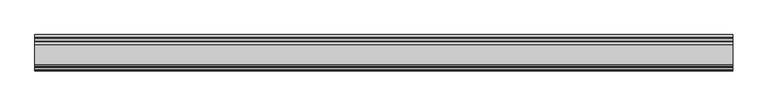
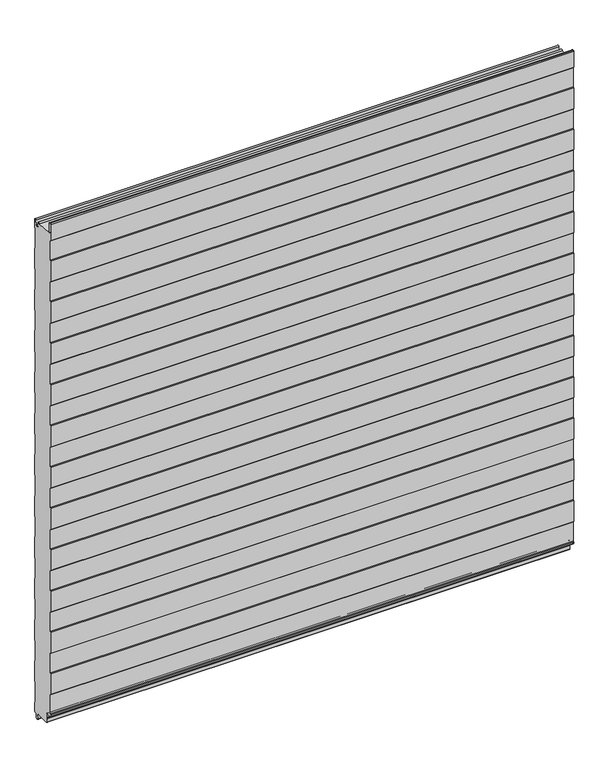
"""IFC4 building model written with IfcOpenShell, lengths in millimetres: plate geometry, HI-PIRM STS 60."""

from ifc_helpers import new_model, si_unit, frame, origin, place, context, project, spatial, polyline, circle_curve, source, transform, mapped, element, save
from ifc_brep_helpers import plane_surface, cylinder_surface, revolved_surface, advanced_brep


def plate_dcec8105(model_context):
    return source(origin(), model_context, "Body", "AdvancedBrep", [
        advanced_brep(
        [(575.0, -43.6, 14.0), (575.0, -14.1537344, 14.0), (575.0, -11.672369, 11.8046734), (575.0, -10.4633779, 1.9582314), (575.0, -6.0366221, 1.9582314), (575.0, -5.0387631, 10.0851407), (575.0, -2.1488719, 12.4953188), (575.0, 0.0, 14.53), (575.0, 0.0, 34.5), (575.0, -1.0, 36.2320508), (575.0, -1.0, 80.7679492), (575.0, 0.0, 82.5), (575.0, 0.0, 130.5), (575.0, -1.0, 132.2320508), (575.0, -1.0, 176.7679492), (575.0, 0.0, 178.5), (575.0, 0.0, 226.5), (575.0, -1.0, 228.2320508), (575.0, -1.0, 272.7679492), (575.0, 0.0, 274.5), (575.0, 0.0, 322.5), (575.0, -1.0, 324.2320508), (575.0, -1.0, 368.7679492), (575.0, 0.0, 370.5), (575.0, 0.0, 418.5), (575.0, -1.0, 420.2320508), (575.0, -1.0, 464.7679492), (575.0, 0.0, 466.5), (575.0, 0.0, 514.5), (575.0, -1.0, 516.2320508), (575.0, -1.0, 560.7679492), (575.0, 0.0, 562.5), (575.0, 0.0, 610.5), (575.0, -1.0, 612.2320508), (575.0, -1.0, 656.7679492), (575.0, 0.0, 658.5), (575.0, 0.0, 706.5), (575.0, -1.0, 708.2320508), (575.0, -1.0, 752.7679492), (575.0, 0.0, 754.5), (575.0, 0.0, 802.5), (575.0, -1.0, 804.2320508), (575.0, -1.0, 848.7679492), (575.0, 0.0, 850.5), (575.0, 0.0, 898.5), (575.0, -1.0, 900.2320508), (575.0, -1.0, 944.7679492), (575.0, 0.0, 946.5), (575.0, 0.0, 994.5), (575.0, -1.0, 996.2320508), (575.0, -1.0, 1040.7679492), (575.0, 0.0, 1042.5), (575.0, 0.0, 1090.5), (575.0, -1.0, 1092.2320508), (575.0, -1.0, 1136.7679492), (575.0, 0.0, 1138.5), (575.0, 0.0, 1158.47), (575.0, -4.0374362, 1158.7718279), (575.0, -5.5305668, 1148.8411199), (575.0, -10.9661738, 1148.8199999), (575.0, -12.2962184, 1157.2214686), (575.0, -16.5, 1156.89), (575.0, -50.0, 1157.97), (575.0, -52.03, 1160.0), (575.0, -53.6, 1160.0), (575.0, -55.0, 1161.4), (575.0, -55.0, 1181.97), (575.0, -57.03, 1184.0), (575.0, -57.97, 1184.0), (575.0, -60.0, 1181.97), (575.0, -60.0, 1145.0), (575.0, -59.0, 1143.2679492), (575.0, -59.0, 1098.7320508), (575.0, -60.0, 1097.0), (575.0, -60.0, 1049.0), (575.0, -59.0, 1047.2679492), (575.0, -59.0, 1002.7320508), (575.0, -60.0, 1001.0), (575.0, -60.0, 953.0), (575.0, -59.0, 951.2679492), (575.0, -59.0, 906.7320508), (575.0, -60.0, 905.0), (575.0, -60.0, 857.0), (575.0, -59.0, 855.2679492), (575.0, -59.0, 810.7320508), (575.0, -60.0, 809.0), (575.0, -60.0, 761.0), (575.0, -59.0, 759.2679492), (575.0, -59.0, 714.7320508), (575.0, -60.0, 713.0), (575.0, -60.0, 665.0), (575.0, -59.0, 663.2679492), (575.0, -59.0, 618.7320508), (575.0, -60.0, 617.0), (575.0, -60.0, 569.0), (575.0, -59.0, 567.2679492), (575.0, -59.0, 522.7320508), (575.0, -60.0, 521.0), (575.0, -60.0, 473.0), (575.0, -59.0, 471.2679492), (575.0, -59.0, 426.7320508), (575.0, -60.0, 425.0), (575.0, -60.0, 377.0), (575.0, -59.0, 375.2679492), (575.0, -59.0, 330.7320508), (575.0, -60.0, 329.0), (575.0, -60.0, 281.0), (575.0, -59.0, 279.2679492), (575.0, -59.0, 234.7320508), (575.0, -60.0, 233.0), (575.0, -60.0, 185.0), (575.0, -59.0, 183.2679492), (575.0, -59.0, 138.7320508), (575.0, -60.0, 137.0), (575.0, -60.0, 89.0), (575.0, -59.0, 87.2679492), (575.0, -59.0, 42.7320508), (575.0, -60.0, 41.0), (575.0, -60.0, 38.03), (575.0, -57.97, 36.0), (575.0, -46.4, 36.0), (575.0, -45.0, 34.6), (575.0, -45.0, 26.5), (575.0, -44.5651531, 25.355051), (575.0, -44.6152408, 24.2526856), (575.0, -45.0, 23.2008894), (575.0, -45.0, 15.4), (-575.0, -43.6, 14.0), (-575.0, -45.0, 15.4), (-575.0, -45.0, 23.2008894), (-575.0, -44.6152408, 24.2526856), (-575.0, -44.5651531, 25.355051), (-575.0, -45.0, 26.5), (-575.0, -45.0, 34.6), (-575.0, -46.4, 36.0), (-575.0, -57.97, 36.0), (-575.0, -60.0, 38.03), (-575.0, -60.0, 41.0), (-575.0, -59.0, 42.7320508), (-575.0, -59.0, 87.2679492), (-575.0, -60.0, 89.0), (-575.0, -60.0, 137.0), (-575.0, -59.0, 138.7320508), (-575.0, -59.0, 183.2679492), (-575.0, -60.0, 185.0), (-575.0, -60.0, 233.0), (-575.0, -59.0, 234.7320508), (-575.0, -59.0, 279.2679492), (-575.0, -60.0, 281.0), (-575.0, -60.0, 329.0), (-575.0, -59.0, 330.7320508), (-575.0, -59.0, 375.2679492), (-575.0, -60.0, 377.0), (-575.0, -60.0, 425.0), (-575.0, -59.0, 426.7320508), (-575.0, -59.0, 471.2679492), (-575.0, -60.0, 473.0), (-575.0, -60.0, 521.0), (-575.0, -59.0, 522.7320508), (-575.0, -59.0, 567.2679492), (-575.0, -60.0, 569.0), (-575.0, -60.0, 617.0), (-575.0, -59.0, 618.7320508), (-575.0, -59.0, 663.2679492), (-575.0, -60.0, 665.0), (-575.0, -60.0, 713.0), (-575.0, -59.0, 714.7320508), (-575.0, -59.0, 759.2679492), (-575.0, -60.0, 761.0), (-575.0, -60.0, 809.0), (-575.0, -59.0, 810.7320508), (-575.0, -59.0, 855.2679492), (-575.0, -60.0, 857.0), (-575.0, -60.0, 905.0), (-575.0, -59.0, 906.7320508), (-575.0, -59.0, 951.2679492), (-575.0, -60.0, 953.0), (-575.0, -60.0, 1001.0), (-575.0, -59.0, 1002.7320508), (-575.0, -59.0, 1047.2679492), (-575.0, -60.0, 1049.0), (-575.0, -60.0, 1097.0), (-575.0, -59.0, 1098.7320508), (-575.0, -59.0, 1143.2679492), (-575.0, -60.0, 1145.0), (-575.0, -60.0, 1181.97), (-575.0, -57.97, 1184.0), (-575.0, -57.03, 1184.0), (-575.0, -55.0, 1181.97), (-575.0, -55.0, 1161.4), (-575.0, -53.6, 1160.0), (-575.0, -52.03, 1160.0), (-575.0, -50.0, 1157.97), (-575.0, -16.5, 1156.89), (-575.0, -12.3059539, 1157.2199273), (-575.0, -10.9661738, 1148.8199999), (-575.0, -5.5305668, 1148.8411199), (-575.0, -4.0374362, 1158.7718279), (-575.0, 0.0, 1158.47), (-575.0, 0.0, 1138.5), (-575.0, -1.0, 1136.7679492), (-575.0, -1.0, 1092.2320508), (-575.0, 0.0, 1090.5), (-575.0, 0.0, 1042.5), (-575.0, -1.0, 1040.7679492), (-575.0, -1.0, 996.2320508), (-575.0, 0.0, 994.5), (-575.0, 0.0, 946.5), (-575.0, -1.0, 944.7679492), (-575.0, -1.0, 900.2320508), (-575.0, 0.0, 898.5), (-575.0, 0.0, 850.5), (-575.0, -1.0, 848.7679492), (-575.0, -1.0, 804.2320508), (-575.0, 0.0, 802.5), (-575.0, 0.0, 754.5), (-575.0, -1.0, 752.7679492), (-575.0, -1.0, 708.2320508), (-575.0, 0.0, 706.5), (-575.0, 0.0, 658.5), (-575.0, -1.0, 656.7679492), (-575.0, -1.0, 612.2320508), (-575.0, 0.0, 610.5), (-575.0, 0.0, 562.5), (-575.0, -1.0, 560.7679492), (-575.0, -1.0, 516.2320508), (-575.0, 0.0, 514.5), (-575.0, 0.0, 466.5), (-575.0, -1.0, 464.7679492), (-575.0, -1.0, 420.2320508), (-575.0, 0.0, 418.5), (-575.0, 0.0, 370.5), (-575.0, -1.0, 368.7679492), (-575.0, -1.0, 324.2320508), (-575.0, 0.0, 322.5), (-575.0, 0.0, 274.5), (-575.0, -1.0, 272.7679492), (-575.0, -1.0, 228.2320508), (-575.0, 0.0, 226.5), (-575.0, 0.0, 178.5), (-575.0, -1.0, 176.7679492), (-575.0, -1.0, 132.2320508), (-575.0, 0.0, 130.5), (-575.0, 0.0, 82.5), (-575.0, -1.0, 80.7679492), (-575.0, -1.0, 36.2320508), (-575.0, 0.0, 34.5), (-575.0, 0.0, 14.53), (-575.0, -2.1483965, 12.5034556), (-575.0, -5.0387631, 10.0851407), (-575.0, -6.0366221, 1.9582314), (-575.0, -10.4633779, 1.9582314), (-575.0, -11.672369, 11.8046734), (-575.0, -14.1537344, 14.0)],
        [
            (0, 1),
            (1, 2, circle_curve(frame((575.0, -14.1537344, 11.5), z_axis=(-1.0, 0.0, 0.0), x_axis=(0.0, 1.0, 0.0)), 2.5)),
            (2, 3),
            (3, 4, circle_curve(frame((575.0, -8.25, 2.23), z_axis=(1.0, 0.0, 0.0), x_axis=(0.0, 1.0, 0.0)), 2.23)),
            (4, 5),
            (5, 6, circle_curve(frame((575.0, -2.3092612, 9.75), z_axis=(-1.0, 0.0, 0.0), x_axis=(0.0, 1.0, 0.0)), 2.75)),
            (6, 7, circle_curve(frame((575.0, -2.03, 14.53), z_axis=(1.0, 0.0, 0.0), x_axis=(0.0, 1.0, 0.0)), 2.03)),
            (7, 8),
            (8, 9),
            (9, 10),
            (10, 11),
            (11, 12),
            (12, 13),
            (13, 14),
            (14, 15),
            (15, 16),
            (16, 17),
            (17, 18),
            (18, 19),
            (19, 20),
            (20, 21),
            (21, 22),
            (22, 23),
            (23, 24),
            (24, 25),
            (25, 26),
            (26, 27),
            (27, 28),
            (28, 29),
            (29, 30),
            (30, 31),
            (31, 32),
            (32, 33),
            (33, 34),
            (34, 35),
            (35, 36),
            (36, 37),
            (37, 38),
            (38, 39),
            (39, 40),
            (40, 41),
            (41, 42),
            (42, 43),
            (43, 44),
            (44, 45),
            (45, 46),
            (46, 47),
            (47, 48),
            (48, 49),
            (49, 50),
            (50, 51),
            (51, 52),
            (52, 53),
            (53, 54),
            (54, 55),
            (55, 56),
            (56, 57, circle_curve(frame((575.0, -2.03, 1158.47), z_axis=(1.0, 0.0, 0.0), x_axis=(0.0, 1.0, 0.0)), 2.03)),
            (57, 58),
            (58, 59, circle_curve(frame((575.0, -8.25, 1149.25), z_axis=(-1.0, 0.0, 0.0), x_axis=(0.0, 1.0, 0.0)), 2.75)),
            (59, 60),
            (60, 61, circle_curve(frame((575.0, -14.39, 1156.89), z_axis=(1.0, 0.0, 0.0), x_axis=(0.0, 1.0, 0.0)), 2.11)),
            (61, 62),
            (62, 63, circle_curve(frame((575.0, -52.03, 1157.97), z_axis=(1.0, 0.0, 0.0), x_axis=(0.0, 1.0, 0.0)), 2.03)),
            (63, 64),
            (64, 65, circle_curve(frame((575.0, -53.6, 1161.4), z_axis=(-1.0, 0.0, 0.0), x_axis=(0.0, 1.0, 0.0)), 1.4)),
            (65, 66),
            (66, 67, circle_curve(frame((575.0, -57.03, 1181.97), z_axis=(1.0, 0.0, 0.0), x_axis=(0.0, 1.0, 0.0)), 2.03)),
            (67, 68),
            (68, 69, circle_curve(frame((575.0, -57.97, 1181.97), z_axis=(1.0, 0.0, 0.0), x_axis=(0.0, 1.0, 0.0)), 2.03)),
            (69, 70),
            (70, 71),
            (71, 72),
            (72, 73),
            (73, 74),
            (74, 75),
            (75, 76),
            (76, 77),
            (77, 78),
            (78, 79),
            (79, 80),
            (80, 81),
            (81, 82),
            (82, 83),
            (83, 84),
            (84, 85),
            (85, 86),
            (86, 87),
            (87, 88),
            (88, 89),
            (89, 90),
            (90, 91),
            (91, 92),
            (92, 93),
            (93, 94),
            (94, 95),
            (95, 96),
            (96, 97),
            (97, 98),
            (98, 99),
            (99, 100),
            (100, 101),
            (101, 102),
            (102, 103),
            (103, 104),
            (104, 105),
            (105, 106),
            (106, 107),
            (107, 108),
            (108, 109),
            (109, 110),
            (110, 111),
            (111, 112),
            (112, 113),
            (113, 114),
            (114, 115),
            (115, 116),
            (116, 117),
            (117, 118),
            (118, 119, circle_curve(frame((575.0, -57.97, 38.03), z_axis=(1.0, 0.0, 0.0), x_axis=(0.0, 1.0, 0.0)), 2.03)),
            (119, 120),
            (120, 121, circle_curve(frame((575.0, -46.4, 34.6), z_axis=(-1.0, 0.0, 0.0), x_axis=(0.0, 1.0, 0.0)), 1.4)),
            (121, 122),
            (122, 123),
            (123, 124, circle_curve(frame((575.0, -45.423346, 24.8417238), z_axis=(-1.0, 0.0, 0.0), x_axis=(0.0, 1.0, 0.0)), 1.0)),
            (124, 125, circle_curve(frame((575.0, -42.9730739, 23.0556893), z_axis=(1.0, 0.0, 0.0), x_axis=(0.0, 1.0, 0.0)), 2.0321202)),
            (125, 126),
            (126, 0, circle_curve(frame((575.0, -43.6, 15.4), z_axis=(1.0, 0.0, 0.0), x_axis=(0.0, 1.0, 0.0)), 1.4)),
            (127, 128, circle_curve(frame((-575.0, -43.6, 15.4), z_axis=(-1.0, 0.0, 0.0), x_axis=(0.0, 1.0, 0.0)), 1.4)),
            (128, 129),
            (129, 130, circle_curve(frame((-575.0, -42.9730739, 23.0556893), z_axis=(-1.0, 0.0, 0.0), x_axis=(0.0, 1.0, 0.0)), 2.0321202)),
            (130, 131, circle_curve(frame((-575.0, -45.423346, 24.8417238), z_axis=(1.0, 0.0, 0.0), x_axis=(0.0, 1.0, 0.0)), 1.0)),
            (131, 132),
            (132, 133),
            (133, 134, circle_curve(frame((-575.0, -46.4, 34.6), z_axis=(1.0, 0.0, 0.0), x_axis=(0.0, 1.0, 0.0)), 1.4)),
            (134, 135),
            (135, 136, circle_curve(frame((-575.0, -57.97, 38.03), z_axis=(-1.0, 0.0, 0.0), x_axis=(0.0, 1.0, 0.0)), 2.03)),
            (136, 137),
            (137, 138),
            (138, 139),
            (139, 140),
            (140, 141),
            (141, 142),
            (142, 143),
            (143, 144),
            (144, 145),
            (145, 146),
            (146, 147),
            (147, 148),
            (148, 149),
            (149, 150),
            (150, 151),
            (151, 152),
            (152, 153),
            (153, 154),
            (154, 155),
            (155, 156),
            (156, 157),
            (157, 158),
            (158, 159),
            (159, 160),
            (160, 161),
            (161, 162),
            (162, 163),
            (163, 164),
            (164, 165),
            (165, 166),
            (166, 167),
            (167, 168),
            (168, 169),
            (169, 170),
            (170, 171),
            (171, 172),
            (172, 173),
            (173, 174),
            (174, 175),
            (175, 176),
            (176, 177),
            (177, 178),
            (178, 179),
            (179, 180),
            (180, 181),
            (181, 182),
            (182, 183),
            (183, 184),
            (184, 185),
            (185, 186, circle_curve(frame((-575.0, -57.97, 1181.97), z_axis=(-1.0, 0.0, 0.0), x_axis=(0.0, 1.0, 0.0)), 2.03)),
            (186, 187),
            (187, 188, circle_curve(frame((-575.0, -57.03, 1181.97), z_axis=(-1.0, 0.0, 0.0), x_axis=(0.0, 1.0, 0.0)), 2.03)),
            (188, 189),
            (189, 190, circle_curve(frame((-575.0, -53.6, 1161.4), z_axis=(1.0, 0.0, 0.0), x_axis=(0.0, 1.0, 0.0)), 1.4)),
            (190, 191),
            (191, 192, circle_curve(frame((-575.0, -52.03, 1157.97), z_axis=(-1.0, 0.0, 0.0), x_axis=(0.0, 1.0, 0.0)), 2.03)),
            (192, 193),
            (193, 194, circle_curve(frame((-575.0, -14.39, 1156.89), z_axis=(-1.0, 0.0, 0.0), x_axis=(0.0, 1.0, 0.0)), 2.11)),
            (194, 195),
            (195, 196, circle_curve(frame((-575.0, -8.25, 1149.25), z_axis=(1.0, 0.0, 0.0), x_axis=(0.0, 1.0, 0.0)), 2.75)),
            (196, 197),
            (197, 198, circle_curve(frame((-575.0, -2.03, 1158.47), z_axis=(-1.0, 0.0, 0.0), x_axis=(0.0, 1.0, 0.0)), 2.03)),
            (198, 199),
            (199, 200),
            (200, 201),
            (201, 202),
            (202, 203),
            (203, 204),
            (204, 205),
            (205, 206),
            (206, 207),
            (207, 208),
            (208, 209),
            (209, 210),
            (210, 211),
            (211, 212),
            (212, 213),
            (213, 214),
            (214, 215),
            (215, 216),
            (216, 217),
            (217, 218),
            (218, 219),
            (219, 220),
            (220, 221),
            (221, 222),
            (222, 223),
            (223, 224),
            (224, 225),
            (225, 226),
            (226, 227),
            (227, 228),
            (228, 229),
            (229, 230),
            (230, 231),
            (231, 232),
            (232, 233),
            (233, 234),
            (234, 235),
            (235, 236),
            (236, 237),
            (237, 238),
            (238, 239),
            (239, 240),
            (240, 241),
            (241, 242),
            (242, 243),
            (243, 244),
            (244, 245),
            (245, 246),
            (246, 247),
            (247, 248, circle_curve(frame((-575.0, -2.03, 14.53), z_axis=(-1.0, 0.0, 0.0), x_axis=(0.0, 1.0, 0.0)), 2.03)),
            (248, 249, circle_curve(frame((-575.0, -2.3092612, 9.75), z_axis=(1.0, 0.0, 0.0), x_axis=(0.0, 1.0, 0.0)), 2.75)),
            (249, 250),
            (250, 251, circle_curve(frame((-575.0, -8.25, 2.23), z_axis=(-1.0, 0.0, 0.0), x_axis=(0.0, 1.0, 0.0)), 2.23)),
            (251, 252),
            (252, 253, circle_curve(frame((-575.0, -14.1537344, 11.5), z_axis=(1.0, 0.0, 0.0), x_axis=(0.0, 1.0, 0.0)), 2.5)),
            (253, 127),
            (0, 127),
            (253, 1),
            (252, 2),
            (251, 3),
            (250, 4),
            (249, 5),
            (248, 6),
            (247, 7),
            (246, 8),
            (245, 9),
            (244, 10),
            (243, 11),
            (242, 12),
            (241, 13),
            (240, 14),
            (239, 15),
            (238, 16),
            (237, 17),
            (236, 18),
            (235, 19),
            (234, 20),
            (233, 21),
            (232, 22),
            (231, 23),
            (230, 24),
            (229, 25),
            (228, 26),
            (227, 27),
            (226, 28),
            (225, 29),
            (224, 30),
            (223, 31),
            (222, 32),
            (221, 33),
            (220, 34),
            (219, 35),
            (218, 36),
            (217, 37),
            (216, 38),
            (215, 39),
            (214, 40),
            (213, 41),
            (212, 42),
            (211, 43),
            (210, 44),
            (209, 45),
            (208, 46),
            (207, 47),
            (206, 48),
            (205, 49),
            (204, 50),
            (203, 51),
            (202, 52),
            (201, 53),
            (200, 54),
            (199, 55),
            (198, 56),
            (197, 57),
            (196, 58),
            (195, 59),
            (194, 60),
            (193, 61),
            (192, 62),
            (191, 63),
            (190, 64),
            (189, 65),
            (188, 66),
            (187, 67),
            (186, 68),
            (185, 69),
            (184, 70),
            (183, 71),
            (182, 72),
            (181, 73),
            (180, 74),
            (179, 75),
            (178, 76),
            (177, 77),
            (176, 78),
            (175, 79),
            (174, 80),
            (173, 81),
            (172, 82),
            (171, 83),
            (170, 84),
            (169, 85),
            (168, 86),
            (167, 87),
            (166, 88),
            (165, 89),
            (164, 90),
            (163, 91),
            (162, 92),
            (161, 93),
            (160, 94),
            (159, 95),
            (158, 96),
            (157, 97),
            (156, 98),
            (155, 99),
            (154, 100),
            (153, 101),
            (152, 102),
            (151, 103),
            (150, 104),
            (149, 105),
            (148, 106),
            (147, 107),
            (146, 108),
            (145, 109),
            (144, 110),
            (143, 111),
            (142, 112),
            (141, 113),
            (140, 114),
            (139, 115),
            (138, 116),
            (137, 117),
            (136, 118),
            (135, 119),
            (134, 120),
            (133, 121),
            (132, 122),
            (131, 123),
            (130, 124),
            (129, 125),
            (128, 126),
        ],
        [
            plane_surface(frame((575.0, -30.6820829, 576.8227924), z_axis=(1.0, 0.0, 0.0), x_axis=(0.0, 1.0, 0.0))),
            plane_surface(frame((-575.0, -30.6820829, 576.8227924), z_axis=(-1.0, 0.0, 0.0), x_axis=(0.0, -1.0, 0.0))),
            plane_surface(frame((575.0, -43.6, 14.0), z_axis=(0.0, 0.0, -1.0), x_axis=(-1.0, 0.0, 0.0))),
            revolved_surface(polyline([(-575.0, -11.6537344, 11.5), (575.0, -11.6537344, 11.5)]), (-575.0, -14.1537344, 11.5), (-1.0, 0.0, 0.0)),
            plane_surface(frame((575.0, -11.672369, 11.8046734), z_axis=(0.0, -0.9925461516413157, -0.1218693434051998), x_axis=(-1.0, 0.0, 0.0))),
            cylinder_surface(frame((-575.0, -8.25, 2.23), z_axis=(1.0, 0.0, 0.0), x_axis=(0.0, 1.0, 0.0)), 2.23),
            plane_surface(frame((575.0, -6.0366221, 1.9582314), z_axis=(0.0, 0.9925461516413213, -0.12186934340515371), x_axis=(-1.0, 0.0, 0.0))),
            revolved_surface(polyline([(-575.0, 0.4407388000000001, 9.75), (575.0, 0.4407388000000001, 9.75)]), (-575.0, -2.3092612, 9.75), (-1.0, 0.0, 0.0)),
            cylinder_surface(frame((-575.0, -2.03, 14.53), z_axis=(1.0, 0.0, 0.0), x_axis=(0.0, 1.0, 0.0)), 2.03),
            plane_surface(frame((575.0, 0.0, 14.53), z_axis=(0.0, 1.0, 0.0), x_axis=(-1.0, 0.0, 0.0))),
            plane_surface(frame((575.0, 0.0, 34.5), z_axis=(0.0, 0.8660254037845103, 0.4999999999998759), x_axis=(-1.0, 0.0, 0.0))),
            plane_surface(frame((575.0, -1.0, 36.2320508), z_axis=(0.0, 1.0, 0.0), x_axis=(-1.0, 0.0, 0.0))),
            plane_surface(frame((575.0, -1.0, 80.7679492), z_axis=(0.0, 0.8660254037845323, -0.4999999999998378), x_axis=(-1.0, 0.0, 0.0))),
            plane_surface(frame((575.0, 0.0, 82.5), z_axis=(0.0, 1.0, 0.0), x_axis=(-1.0, 0.0, 0.0))),
            plane_surface(frame((575.0, 0.0, 130.5), z_axis=(0.0, 0.8660254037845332, 0.49999999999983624), x_axis=(-1.0, 0.0, 0.0))),
            plane_surface(frame((575.0, -1.0, 132.2320508), z_axis=(0.0, 1.0, 0.0), x_axis=(-1.0, 0.0, 0.0))),
            plane_surface(frame((575.0, -1.0, 176.7679492), z_axis=(0.0, 0.8660254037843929, -0.5000000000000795), x_axis=(-1.0, 0.0, 0.0))),
            plane_surface(frame((575.0, 0.0, 178.5), z_axis=(0.0, 1.0, 0.0), x_axis=(-1.0, 0.0, 0.0))),
            plane_surface(frame((575.0, 0.0, 226.5), z_axis=(0.0, 0.8660254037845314, 0.4999999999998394), x_axis=(-1.0, 0.0, 0.0))),
            plane_surface(frame((575.0, -1.0, 228.2320508), z_axis=(0.0, 1.0, 0.0), x_axis=(-1.0, 0.0, 0.0))),
            plane_surface(frame((575.0, -1.0, 272.7679492), z_axis=(0.0, 0.8660254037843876, -0.5000000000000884), x_axis=(-1.0, 0.0, 0.0))),
            plane_surface(frame((575.0, 0.0, 274.5), z_axis=(0.0, 1.0, 0.0), x_axis=(-1.0, 0.0, 0.0))),
            plane_surface(frame((575.0, 0.0, 322.5), z_axis=(0.0, 0.8660254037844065, 0.5000000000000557), x_axis=(-1.0, 0.0, 0.0))),
            plane_surface(frame((575.0, -1.0, 324.2320508), z_axis=(0.0, 1.0, 0.0), x_axis=(-1.0, 0.0, 0.0))),
            plane_surface(frame((575.0, -1.0, 368.7679492), z_axis=(0.0, 0.8660254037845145, -0.49999999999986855), x_axis=(-1.0, 0.0, 0.0))),
            plane_surface(frame((575.0, 0.0, 370.5), z_axis=(0.0, 1.0, 0.0), x_axis=(-1.0, 0.0, 0.0))),
            plane_surface(frame((575.0, 0.0, 418.5), z_axis=(0.0, 0.8660254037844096, 0.5000000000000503), x_axis=(-1.0, 0.0, 0.0))),
            plane_surface(frame((575.0, -1.0, 420.2320508), z_axis=(0.0, 1.0, 0.0), x_axis=(-1.0, 0.0, 0.0))),
            plane_surface(frame((575.0, -1.0, 464.7679492), z_axis=(0.0, 0.8660254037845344, -0.4999999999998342), x_axis=(-1.0, 0.0, 0.0))),
            plane_surface(frame((575.0, 0.0, 466.5), z_axis=(0.0, 1.0, 0.0), x_axis=(-1.0, 0.0, 0.0))),
            plane_surface(frame((575.0, 0.0, 514.5), z_axis=(0.0, 0.8660254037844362, 0.5000000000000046), x_axis=(-1.0, 0.0, 0.0))),
            plane_surface(frame((575.0, -1.0, 516.2320508), z_axis=(0.0, 1.0, 0.0), x_axis=(-1.0, 0.0, 0.0))),
            plane_surface(frame((575.0, -1.0, 560.7679492), z_axis=(0.0, 0.8660254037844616, -0.49999999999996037), x_axis=(-1.0, 0.0, 0.0))),
            plane_surface(frame((575.0, 0.0, 562.5), z_axis=(0.0, 1.0, 0.0), x_axis=(-1.0, 0.0, 0.0))),
            plane_surface(frame((575.0, 0.0, 610.5), z_axis=(0.0, 0.866025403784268, 0.5000000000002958), x_axis=(-1.0, 0.0, 0.0))),
            plane_surface(frame((575.0, -1.0, 612.2320508), z_axis=(0.0, 1.0, 0.0), x_axis=(-1.0, 0.0, 0.0))),
            plane_surface(frame((575.0, -1.0, 656.7679492), z_axis=(0.0, 0.8660254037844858, -0.49999999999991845), x_axis=(-1.0, 0.0, 0.0))),
            plane_surface(frame((575.0, 0.0, 658.5), z_axis=(0.0, 1.0, 0.0), x_axis=(-1.0, 0.0, 0.0))),
            plane_surface(frame((575.0, 0.0, 706.5), z_axis=(0.0, 0.8660254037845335, 0.49999999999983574), x_axis=(-1.0, 0.0, 0.0))),
            plane_surface(frame((575.0, -1.0, 708.2320508), z_axis=(0.0, 1.0, 0.0), x_axis=(-1.0, 0.0, 0.0))),
            plane_surface(frame((575.0, -1.0, 752.7679492), z_axis=(0.0, 0.8660254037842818, -0.5000000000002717), x_axis=(-1.0, 0.0, 0.0))),
            plane_surface(frame((575.0, 0.0, 754.5), z_axis=(0.0, 1.0, 0.0), x_axis=(-1.0, 0.0, 0.0))),
            plane_surface(frame((575.0, 0.0, 802.5), z_axis=(0.0, 0.8660254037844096, 0.5000000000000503), x_axis=(-1.0, 0.0, 0.0))),
            plane_surface(frame((575.0, -1.0, 804.2320508), z_axis=(0.0, 1.0, 0.0), x_axis=(-1.0, 0.0, 0.0))),
            plane_surface(frame((575.0, -1.0, 848.7679492), z_axis=(0.0, 0.8660254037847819, -0.4999999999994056), x_axis=(-1.0, 0.0, 0.0))),
            plane_surface(frame((575.0, 0.0, 850.5), z_axis=(0.0, 1.0, 0.0), x_axis=(-1.0, 0.0, 0.0))),
            plane_surface(frame((575.0, 0.0, 898.5), z_axis=(0.0, 0.8660254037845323, 0.4999999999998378), x_axis=(-1.0, 0.0, 0.0))),
            plane_surface(frame((575.0, -1.0, 900.2320508), z_axis=(0.0, 1.0, 0.0), x_axis=(-1.0, 0.0, 0.0))),
            plane_surface(frame((575.0, -1.0, 944.7679492), z_axis=(0.0, 0.8660254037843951, -0.5000000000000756), x_axis=(-1.0, 0.0, 0.0))),
            plane_surface(frame((575.0, 0.0, 946.5), z_axis=(0.0, 1.0, 0.0), x_axis=(-1.0, 0.0, 0.0))),
            plane_surface(frame((575.0, 0.0, 994.5), z_axis=(0.0, 0.8660254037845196, 0.4999999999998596), x_axis=(-1.0, 0.0, 0.0))),
            plane_surface(frame((575.0, -1.0, 996.2320508), z_axis=(0.0, 1.0, 0.0), x_axis=(-1.0, 0.0, 0.0))),
            plane_surface(frame((575.0, -1.0, 1040.7679492), z_axis=(0.0, 0.866025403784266, -0.5000000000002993), x_axis=(-1.0, 0.0, 0.0))),
            plane_surface(frame((575.0, 0.0, 1042.5), z_axis=(0.0, 1.0, 0.0), x_axis=(-1.0, 0.0, 0.0))),
            plane_surface(frame((575.0, 0.0, 1090.5), z_axis=(0.0, 0.866025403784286, 0.5000000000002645), x_axis=(-1.0, 0.0, 0.0))),
            plane_surface(frame((575.0, -1.0, 1092.2320508), z_axis=(0.0, 1.0, 0.0), x_axis=(-1.0, 0.0, 0.0))),
            plane_surface(frame((575.0, -1.0, 1136.7679492), z_axis=(0.0, 0.8660254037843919, -0.500000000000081), x_axis=(-1.0, 0.0, 0.0))),
            plane_surface(frame((575.0, 0.0, 1138.5), z_axis=(0.0, 1.0, 0.0), x_axis=(-1.0, 0.0, 0.0))),
            cylinder_surface(frame((-575.0, -2.03, 1158.47), z_axis=(1.0, 0.0, 0.0), x_axis=(0.0, 1.0, 0.0)), 2.03),
            plane_surface(frame((575.0, -4.0374362, 1158.7718279), z_axis=(0.0, -0.9888848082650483, 0.14868367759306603), x_axis=(-1.0, 0.0, 0.0))),
            revolved_surface(polyline([(-575.0, -5.5, 1149.25), (575.0, -5.5, 1149.25)]), (-575.0, -8.25, 1149.25), (-1.0, 0.0, 0.0)),
            plane_surface(frame((575.0, -10.9661738, 1148.8199999), z_axis=(0.0, 0.9876995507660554, 0.15636367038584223), x_axis=(-1.0, 0.0, 0.0))),
            cylinder_surface(frame((-575.0, -14.39, 1156.89), z_axis=(1.0, 0.0, 0.0), x_axis=(0.0, 1.0, 0.0)), 2.11),
            plane_surface(frame((575.0, -16.5, 1156.89), z_axis=(0.0, 0.03222206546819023, 0.9994807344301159), x_axis=(-1.0, 0.0, 0.0))),
            cylinder_surface(frame((-575.0, -52.03, 1157.97), z_axis=(1.0, 0.0, 0.0), x_axis=(0.0, 1.0, 0.0)), 2.03),
            plane_surface(frame((575.0, -52.03, 1160.0), z_axis=(0.0, 0.0, 1.0), x_axis=(-1.0, 0.0, 0.0))),
            revolved_surface(polyline([(-575.0, -52.2, 1161.4), (575.0, -52.2, 1161.4)]), (-575.0, -53.6, 1161.4), (-1.0, 0.0, 0.0)),
            plane_surface(frame((575.0, -55.0, 1161.4), z_axis=(0.0, 1.0, 0.0), x_axis=(-1.0, 0.0, 0.0))),
            cylinder_surface(frame((-575.0, -57.03, 1181.97), z_axis=(1.0, 0.0, 0.0), x_axis=(0.0, 1.0, 0.0)), 2.03),
            plane_surface(frame((575.0, -57.03, 1184.0), z_axis=(0.0, 0.0, 1.0), x_axis=(-1.0, 0.0, 0.0))),
            cylinder_surface(frame((-575.0, -57.97, 1181.97), z_axis=(1.0, 0.0, 0.0), x_axis=(0.0, 1.0, 0.0)), 2.03),
            plane_surface(frame((575.0, -60.0, 1181.97), z_axis=(0.0, -1.0, 0.0), x_axis=(-1.0, 0.0, 0.0))),
            plane_surface(frame((575.0, -60.0, 1145.0), z_axis=(0.0, -0.8660254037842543, -0.5000000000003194), x_axis=(-1.0, 0.0, 0.0))),
            plane_surface(frame((575.0, -59.0, 1143.2679492), z_axis=(0.0, -1.0, 0.0), x_axis=(-1.0, 0.0, 0.0))),
            plane_surface(frame((575.0, -59.0, 1098.7320508), z_axis=(0.0, -0.8660254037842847, 0.5000000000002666), x_axis=(-1.0, 0.0, 0.0))),
            plane_surface(frame((575.0, -60.0, 1097.0), z_axis=(0.0, -1.0, 0.0), x_axis=(-1.0, 0.0, 0.0))),
            plane_surface(frame((575.0, -60.0, 1049.0), z_axis=(0.0, -0.8660254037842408, -0.5000000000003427), x_axis=(-1.0, 0.0, 0.0))),
            plane_surface(frame((575.0, -59.0, 1047.2679492), z_axis=(0.0, -1.0, 0.0), x_axis=(-1.0, 0.0, 0.0))),
            plane_surface(frame((575.0, -59.0, 1002.7320508), z_axis=(0.0, -0.8660254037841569, 0.500000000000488), x_axis=(-1.0, 0.0, 0.0))),
            plane_surface(frame((575.0, -60.0, 1001.0), z_axis=(0.0, -1.0, 0.0), x_axis=(-1.0, 0.0, 0.0))),
            plane_surface(frame((575.0, -60.0, 953.0), z_axis=(0.0, -0.8660254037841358, -0.5000000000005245), x_axis=(-1.0, 0.0, 0.0))),
            plane_surface(frame((575.0, -59.0, 951.2679492), z_axis=(0.0, -1.0, 0.0), x_axis=(-1.0, 0.0, 0.0))),
            plane_surface(frame((575.0, -59.0, 906.7320508), z_axis=(0.0, -0.8660254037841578, 0.5000000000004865), x_axis=(-1.0, 0.0, 0.0))),
            plane_surface(frame((575.0, -60.0, 905.0), z_axis=(0.0, -1.0, 0.0), x_axis=(-1.0, 0.0, 0.0))),
            plane_surface(frame((575.0, -60.0, 857.0), z_axis=(0.0, -0.8660254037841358, -0.5000000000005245), x_axis=(-1.0, 0.0, 0.0))),
            plane_surface(frame((575.0, -59.0, 855.2679492), z_axis=(0.0, -1.0, 0.0), x_axis=(-1.0, 0.0, 0.0))),
            plane_surface(frame((575.0, -59.0, 810.7320508), z_axis=(0.0, -0.8660254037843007, 0.5000000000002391), x_axis=(-1.0, 0.0, 0.0))),
            plane_surface(frame((575.0, -60.0, 809.0), z_axis=(0.0, -1.0, 0.0), x_axis=(-1.0, 0.0, 0.0))),
            plane_surface(frame((575.0, -60.0, 761.0), z_axis=(0.0, -0.8660254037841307, -0.5000000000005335), x_axis=(-1.0, 0.0, 0.0))),
            plane_surface(frame((575.0, -59.0, 759.2679492), z_axis=(0.0, -1.0, 0.0), x_axis=(-1.0, 0.0, 0.0))),
            plane_surface(frame((575.0, -59.0, 714.7320508), z_axis=(0.0, -0.8660254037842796, 0.5000000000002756), x_axis=(-1.0, 0.0, 0.0))),
            plane_surface(frame((575.0, -60.0, 713.0), z_axis=(0.0, -1.0, 0.0), x_axis=(-1.0, 0.0, 0.0))),
            plane_surface(frame((575.0, -60.0, 665.0), z_axis=(0.0, -0.8660254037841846, -0.5000000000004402), x_axis=(-1.0, 0.0, 0.0))),
            plane_surface(frame((575.0, -59.0, 663.2679492), z_axis=(0.0, -1.0, 0.0), x_axis=(-1.0, 0.0, 0.0))),
            plane_surface(frame((575.0, -59.0, 618.7320508), z_axis=(0.0, -0.8660254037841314, 0.5000000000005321), x_axis=(-1.0, 0.0, 0.0))),
            plane_surface(frame((575.0, -60.0, 617.0), z_axis=(0.0, -1.0, 0.0), x_axis=(-1.0, 0.0, 0.0))),
            plane_surface(frame((575.0, -60.0, 569.0), z_axis=(0.0, -0.8660254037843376, -0.5000000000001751), x_axis=(-1.0, 0.0, 0.0))),
            plane_surface(frame((575.0, -59.0, 567.2679492), z_axis=(0.0, -1.0, 0.0), x_axis=(-1.0, 0.0, 0.0))),
            plane_surface(frame((575.0, -59.0, 522.7320508), z_axis=(0.0, -0.8660254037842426, 0.5000000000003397), x_axis=(-1.0, 0.0, 0.0))),
            plane_surface(frame((575.0, -60.0, 521.0), z_axis=(0.0, -1.0, 0.0), x_axis=(-1.0, 0.0, 0.0))),
            plane_surface(frame((575.0, -60.0, 473.0), z_axis=(0.0, -0.8660254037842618, -0.5000000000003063), x_axis=(-1.0, 0.0, 0.0))),
            plane_surface(frame((575.0, -59.0, 471.2679492), z_axis=(0.0, -1.0, 0.0), x_axis=(-1.0, 0.0, 0.0))),
            plane_surface(frame((575.0, -59.0, 426.7320508), z_axis=(0.0, -0.8660254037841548, 0.5000000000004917), x_axis=(-1.0, 0.0, 0.0))),
            plane_surface(frame((575.0, -60.0, 425.0), z_axis=(0.0, -1.0, 0.0), x_axis=(-1.0, 0.0, 0.0))),
            plane_surface(frame((575.0, -60.0, 377.0), z_axis=(0.0, -0.8660254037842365, -0.50000000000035), x_axis=(-1.0, 0.0, 0.0))),
            plane_surface(frame((575.0, -59.0, 375.2679492), z_axis=(0.0, -1.0, 0.0), x_axis=(-1.0, 0.0, 0.0))),
            plane_surface(frame((575.0, -59.0, 330.7320508), z_axis=(0.0, -0.86602540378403, 0.5000000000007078), x_axis=(-1.0, 0.0, 0.0))),
            plane_surface(frame((575.0, -60.0, 329.0), z_axis=(0.0, -1.0, 0.0), x_axis=(-1.0, 0.0, 0.0))),
            plane_surface(frame((575.0, -60.0, 281.0), z_axis=(0.0, -0.8660254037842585, -0.500000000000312), x_axis=(-1.0, 0.0, 0.0))),
            plane_surface(frame((575.0, -59.0, 279.2679492), z_axis=(0.0, -1.0, 0.0), x_axis=(-1.0, 0.0, 0.0))),
            plane_surface(frame((575.0, -59.0, 234.7320508), z_axis=(0.0, -0.8660254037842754, 0.5000000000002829), x_axis=(-1.0, 0.0, 0.0))),
            plane_surface(frame((575.0, -60.0, 233.0), z_axis=(0.0, -1.0, 0.0), x_axis=(-1.0, 0.0, 0.0))),
            plane_surface(frame((575.0, -60.0, 185.0), z_axis=(0.0, -0.8660254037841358, -0.5000000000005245), x_axis=(-1.0, 0.0, 0.0))),
            plane_surface(frame((575.0, -59.0, 183.2679492), z_axis=(0.0, -1.0, 0.0), x_axis=(-1.0, 0.0, 0.0))),
            plane_surface(frame((575.0, -59.0, 138.7320508), z_axis=(0.0, -0.8660254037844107, 0.5000000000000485), x_axis=(-1.0, 0.0, 0.0))),
            plane_surface(frame((575.0, -60.0, 137.0), z_axis=(0.0, -1.0, 0.0), x_axis=(-1.0, 0.0, 0.0))),
            plane_surface(frame((575.0, -60.0, 89.0), z_axis=(0.0, -0.866025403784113, -0.5000000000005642), x_axis=(-1.0, 0.0, 0.0))),
            plane_surface(frame((575.0, -59.0, 87.2679492), z_axis=(0.0, -1.0, 0.0), x_axis=(-1.0, 0.0, 0.0))),
            plane_surface(frame((575.0, -59.0, 42.7320508), z_axis=(0.0, -0.8660254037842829, 0.5000000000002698), x_axis=(-1.0, 0.0, 0.0))),
            plane_surface(frame((575.0, -60.0, 41.0), z_axis=(0.0, -1.0, 0.0), x_axis=(-1.0, 0.0, 0.0))),
            cylinder_surface(frame((-575.0, -57.97, 38.03), z_axis=(1.0, 0.0, 0.0), x_axis=(0.0, 1.0, 0.0)), 2.03),
            plane_surface(frame((575.0, -57.97, 36.0), z_axis=(0.0, 0.0, -1.0), x_axis=(-1.0, 0.0, 0.0))),
            revolved_surface(polyline([(-575.0, -45.0, 34.6), (575.0, -45.0, 34.6)]), (-575.0, -46.4, 34.6), (-1.0, 0.0, 0.0)),
            plane_surface(frame((575.0, -45.0, 34.6), z_axis=(0.0, -1.0, 0.0), x_axis=(-1.0, 0.0, 0.0))),
            plane_surface(frame((575.0, -45.0, 26.5), z_axis=(0.0, -0.9348469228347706, -0.3550510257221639), x_axis=(-1.0, 0.0, 0.0))),
            revolved_surface(polyline([(-575.0, -44.423346, 24.8417238), (575.0, -44.423346, 24.8417238)]), (-575.0, -45.423346, 24.8417238), (-1.0, 0.0, 0.0)),
            cylinder_surface(frame((-575.0, -42.9730739, 23.0556893), z_axis=(1.0, 0.0, 0.0), x_axis=(0.0, 1.0, 0.0)), 2.0321202),
            plane_surface(frame((575.0, -45.0, 23.2008894), z_axis=(0.0, -1.0, -3.678823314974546e-12), x_axis=(-1.0, 0.0, 0.0))),
            cylinder_surface(frame((-575.0, -43.6, 15.4), z_axis=(1.0, 0.0, 0.0), x_axis=(0.0, 1.0, 0.0)), 1.4),
        ],
        [
            (0, [[1, 2, 3, 4, 5, 6, 7, 8, 9, 10, 11, 12, 13, 14, 15, 16, 17, 18, 19, 20, 21, 22, 23, 24, 25, 26, 27, 28, 29, 30, 31, 32, 33, 34, 35, 36, 37, 38, 39, 40, 41, 42, 43, 44, 45, 46, 47, 48, 49, 50, 51, 52, 53, 54, 55, 56, 57, 58, 59, 60, 61, 62, 63, 64, 65, 66, 67, 68, 69, 70, 71, 72, 73, 74, 75, 76, 77, 78, 79, 80, 81, 82, 83, 84, 85, 86, 87, 88, 89, 90, 91, 92, 93, 94, 95, 96, 97, 98, 99, 100, 101, 102, 103, 104, 105, 106, 107, 108, 109, 110, 111, 112, 113, 114, 115, 116, 117, 118, 119, 120, 121, 122, 123, 124, 125, 126, 127]]),
            (1, [[128, 129, 130, 131, 132, 133, 134, 135, 136, 137, 138, 139, 140, 141, 142, 143, 144, 145, 146, 147, 148, 149, 150, 151, 152, 153, 154, 155, 156, 157, 158, 159, 160, 161, 162, 163, 164, 165, 166, 167, 168, 169, 170, 171, 172, 173, 174, 175, 176, 177, 178, 179, 180, 181, 182, 183, 184, 185, 186, 187, 188, 189, 190, 191, 192, 193, 194, 195, 196, 197, 198, 199, 200, 201, 202, 203, 204, 205, 206, 207, 208, 209, 210, 211, 212, 213, 214, 215, 216, 217, 218, 219, 220, 221, 222, 223, 224, 225, 226, 227, 228, 229, 230, 231, 232, 233, 234, 235, 236, 237, 238, 239, 240, 241, 242, 243, 244, 245, 246, 247, 248, 249, 250, 251, 252, 253, 254]]),
            (2, [[-1, 255, -254, 256]]),
            (3, [[-2, -256, -253, 257]]),
            (4, [[-3, -257, -252, 258]]),
            (5, [[-4, -258, -251, 259]]),
            (6, [[-5, -259, -250, 260]]),
            (7, [[-6, -260, -249, 261]]),
            (8, [[-7, -261, -248, 262]]),
            (9, [[-8, -262, -247, 263]]),
            (10, [[-9, -263, -246, 264]]),
            (11, [[-10, -264, -245, 265]]),
            (12, [[-11, -265, -244, 266]]),
            (13, [[-12, -266, -243, 267]]),
            (14, [[-13, -267, -242, 268]]),
            (15, [[-14, -268, -241, 269]]),
            (16, [[-15, -269, -240, 270]]),
            (17, [[-16, -270, -239, 271]]),
            (18, [[-17, -271, -238, 272]]),
            (19, [[-18, -272, -237, 273]]),
            (20, [[-19, -273, -236, 274]]),
            (21, [[-20, -274, -235, 275]]),
            (22, [[-21, -275, -234, 276]]),
            (23, [[-22, -276, -233, 277]]),
            (24, [[-23, -277, -232, 278]]),
            (25, [[-24, -278, -231, 279]]),
            (26, [[-25, -279, -230, 280]]),
            (27, [[-26, -280, -229, 281]]),
            (28, [[-27, -281, -228, 282]]),
            (29, [[-28, -282, -227, 283]]),
            (30, [[-29, -283, -226, 284]]),
            (31, [[-30, -284, -225, 285]]),
            (32, [[-31, -285, -224, 286]]),
            (33, [[-32, -286, -223, 287]]),
            (34, [[-33, -287, -222, 288]]),
            (35, [[-34, -288, -221, 289]]),
            (36, [[-35, -289, -220, 290]]),
            (37, [[-36, -290, -219, 291]]),
            (38, [[-37, -291, -218, 292]]),
            (39, [[-38, -292, -217, 293]]),
            (40, [[-39, -293, -216, 294]]),
            (41, [[-40, -294, -215, 295]]),
            (42, [[-41, -295, -214, 296]]),
            (43, [[-42, -296, -213, 297]]),
            (44, [[-43, -297, -212, 298]]),
            (45, [[-44, -298, -211, 299]]),
            (46, [[-45, -299, -210, 300]]),
            (47, [[-46, -300, -209, 301]]),
            (48, [[-47, -301, -208, 302]]),
            (49, [[-48, -302, -207, 303]]),
            (50, [[-49, -303, -206, 304]]),
            (51, [[-50, -304, -205, 305]]),
            (52, [[-51, -305, -204, 306]]),
            (53, [[-52, -306, -203, 307]]),
            (54, [[-53, -307, -202, 308]]),
            (55, [[-54, -308, -201, 309]]),
            (56, [[-55, -309, -200, 310]]),
            (57, [[-56, -310, -199, 311]]),
            (58, [[-57, -311, -198, 312]]),
            (59, [[-58, -312, -197, 313]]),
            (60, [[-59, -313, -196, 314]]),
            (61, [[-60, -314, -195, 315]]),
            (62, [[-61, -315, -194, 316]]),
            (63, [[-62, -316, -193, 317]]),
            (64, [[-63, -317, -192, 318]]),
            (65, [[-64, -318, -191, 319]]),
            (66, [[-65, -319, -190, 320]]),
            (67, [[-66, -320, -189, 321]]),
            (68, [[-67, -321, -188, 322]]),
            (69, [[-68, -322, -187, 323]]),
            (70, [[-69, -323, -186, 324]]),
            (71, [[-70, -324, -185, 325]]),
            (72, [[-71, -325, -184, 326]]),
            (73, [[-72, -326, -183, 327]]),
            (74, [[-73, -327, -182, 328]]),
            (75, [[-74, -328, -181, 329]]),
            (76, [[-75, -329, -180, 330]]),
            (77, [[-76, -330, -179, 331]]),
            (78, [[-77, -331, -178, 332]]),
            (79, [[-78, -332, -177, 333]]),
            (80, [[-79, -333, -176, 334]]),
            (81, [[-80, -334, -175, 335]]),
            (82, [[-81, -335, -174, 336]]),
            (83, [[-82, -336, -173, 337]]),
            (84, [[-83, -337, -172, 338]]),
            (85, [[-84, -338, -171, 339]]),
            (86, [[-85, -339, -170, 340]]),
            (87, [[-86, -340, -169, 341]]),
            (88, [[-87, -341, -168, 342]]),
            (89, [[-88, -342, -167, 343]]),
            (90, [[-89, -343, -166, 344]]),
            (91, [[-90, -344, -165, 345]]),
            (92, [[-91, -345, -164, 346]]),
            (93, [[-92, -346, -163, 347]]),
            (94, [[-93, -347, -162, 348]]),
            (95, [[-94, -348, -161, 349]]),
            (96, [[-95, -349, -160, 350]]),
            (97, [[-96, -350, -159, 351]]),
            (98, [[-97, -351, -158, 352]]),
            (99, [[-98, -352, -157, 353]]),
            (100, [[-99, -353, -156, 354]]),
            (101, [[-100, -354, -155, 355]]),
            (102, [[-101, -355, -154, 356]]),
            (103, [[-102, -356, -153, 357]]),
            (104, [[-103, -357, -152, 358]]),
            (105, [[-104, -358, -151, 359]]),
            (106, [[-105, -359, -150, 360]]),
            (107, [[-106, -360, -149, 361]]),
            (108, [[-107, -361, -148, 362]]),
            (109, [[-108, -362, -147, 363]]),
            (110, [[-109, -363, -146, 364]]),
            (111, [[-110, -364, -145, 365]]),
            (112, [[-111, -365, -144, 366]]),
            (113, [[-112, -366, -143, 367]]),
            (114, [[-113, -367, -142, 368]]),
            (115, [[-114, -368, -141, 369]]),
            (116, [[-115, -369, -140, 370]]),
            (117, [[-116, -370, -139, 371]]),
            (118, [[-117, -371, -138, 372]]),
            (119, [[-118, -372, -137, 373]]),
            (120, [[-119, -373, -136, 374]]),
            (121, [[-120, -374, -135, 375]]),
            (122, [[-121, -375, -134, 376]]),
            (123, [[-122, -376, -133, 377]]),
            (124, [[-123, -377, -132, 378]]),
            (125, [[-124, -378, -131, 379]]),
            (126, [[-125, -379, -130, 380]]),
            (127, [[-126, -380, -129, 381]]),
            (128, [[-127, -381, -128, -255]]),
        ],
    ),
    ])


if __name__ == "__main__":
    model = new_model("IFC4")
    model_context = context("Model", 3, world=origin())
    ifc_project = project(units=[si_unit("LENGTHUNIT", "METRE", prefix="MILLI")], contexts=[model_context])
    site = spatial("IfcSite", under=ifc_project)
    building = spatial("IfcBuilding", under=site)
    placement = place(None, origin())
    plate_shape = plate_dcec8105(model_context)
    element("IfcPlate", 1, ObjectType="HI-PIRM STS 60", at=placement, inside=building, context=model_context, shape_type="MappedRepresentation", body=[
        mapped(plate_shape, transform((0.0, 0.0, 0.0), x_axis=(1.0, 0.0, 0.0), y_axis=(0.0, 1.0, 0.0), z_axis=(0.0, 0.0, 1.0))),
    ])
    save(model, "model.ifc")
